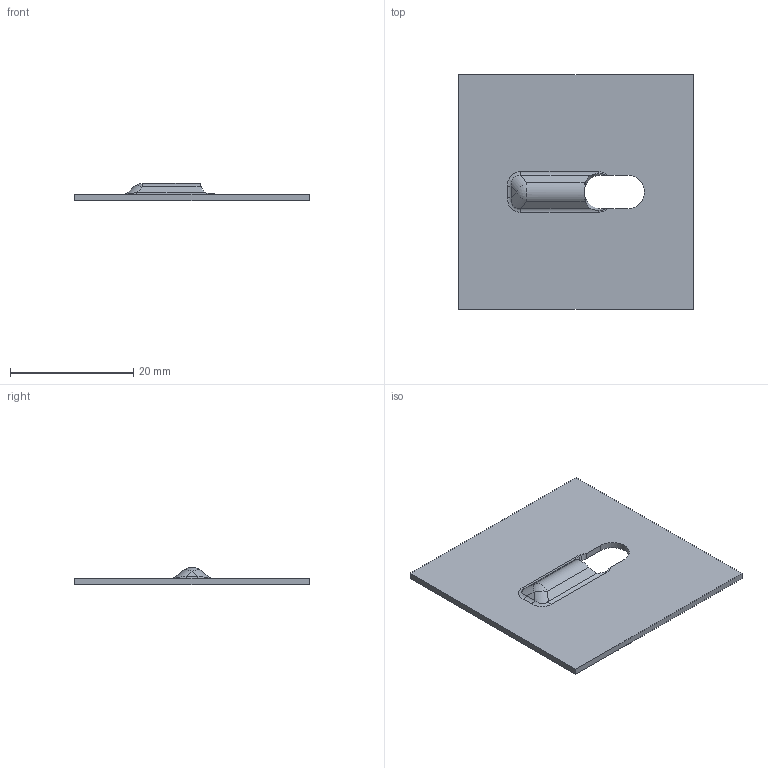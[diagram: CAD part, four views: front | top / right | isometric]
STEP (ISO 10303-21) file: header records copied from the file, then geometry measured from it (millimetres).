
FILE_DESCRIPTION((''),'1');
FILE_NAME('C:/Users/robertnolte/Desktop/407-6163-00 REV 10 & 11.stp', '2019-03-12T22:40:08',(''), (''), 'KCM Version 1.1.0.0', 'KeyCreator', '');
FILE_SCHEMA(('CONFIG_CONTROL_DESIGN'));
Length unit declared in the file: inch
Bounding box: 38.1 x 38.1 x 2.76 mm (x, y, z)
Volume: 1439.2 mm3; surface area: 3015.5 mm2
Topology: 1 solids, 1 shells, 46 faces, 102 edges, 58 vertices
Faces by surface type: bspline 17, plane 14, cylinder 13, sphere 2
Entity records: 2055 total; most frequent: CARTESIAN_POINT 1104, ORIENTED_EDGE 204, DIRECTION 152, EDGE_CURVE 102, VERTEX_POINT 58, VECTOR 52, LINE 52, AXIS2_PLACEMENT_3D 50
